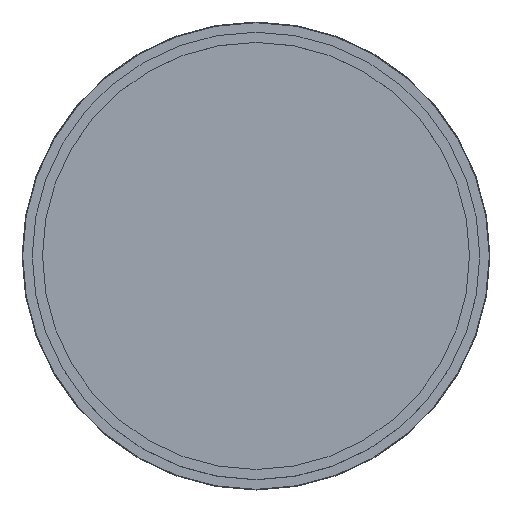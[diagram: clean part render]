
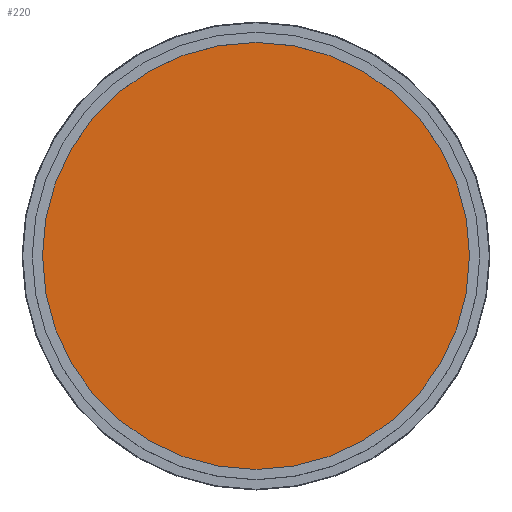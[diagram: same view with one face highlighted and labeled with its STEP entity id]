
A CAD part, top view. The second image highlights one B-rep face of the part: STEP entity #220.
In plain terms, the highlighted planar face has unit normal (0, 0, 1).
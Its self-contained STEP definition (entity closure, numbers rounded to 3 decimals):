
#38 = CIRCLE ( 'NONE', #669, 417.5 ) ;
#89 = CIRCLE ( 'NONE', #678, 417.5 ) ;
#172 = ORIENTED_EDGE ( 'NONE', *, *, #780, .T. ) ;
#190 = ORIENTED_EDGE ( 'NONE', *, *, #759, .T. ) ;
#220 = ADVANCED_FACE ( 'NONE', ( #359 ), #810, .F. ) ;
#257 = VERTEX_POINT ( 'NONE', #434 ) ;
#259 = EDGE_LOOP ( 'NONE', ( #172, #190 ) ) ;
#299 = VERTEX_POINT ( 'NONE', #419 ) ;
#359 = FACE_OUTER_BOUND ( 'NONE', #259, .T. ) ;
#419 = CARTESIAN_POINT ( 'NONE',  ( 417.5, 0., 60. ) ) ;
#434 = CARTESIAN_POINT ( 'NONE',  ( -417.5, 0., 60. ) ) ;
#562 = CARTESIAN_POINT ( 'NONE',  ( 0., 0., 60. ) ) ;
#563 = DIRECTION ( 'NONE',  ( 0., 0., 1. ) ) ;
#564 = DIRECTION ( 'NONE',  ( 1., 0., 0. ) ) ;
#597 = CARTESIAN_POINT ( 'NONE',  ( 0., 0., 60. ) ) ;
#598 = DIRECTION ( 'NONE',  ( 0., 0., 1. ) ) ;
#599 = DIRECTION ( 'NONE',  ( 1., 0., 0. ) ) ;
#669 = AXIS2_PLACEMENT_3D ( 'NONE', #597, #598, #599 ) ;
#678 = AXIS2_PLACEMENT_3D ( 'NONE', #562, #563, #564 ) ;
#759 = EDGE_CURVE ( 'NONE', #299, #257, #89, .T. ) ;
#780 = EDGE_CURVE ( 'NONE', #257, #299, #38, .T. ) ;
#798 = AXIS2_PLACEMENT_3D ( 'NONE', #820, #805, #824 ) ;
#805 = DIRECTION ( 'NONE',  ( 0., 0., -1. ) ) ;
#810 = PLANE ( 'NONE',  #798 ) ;
#820 = CARTESIAN_POINT ( 'NONE',  ( 0., 0., 60. ) ) ;
#824 = DIRECTION ( 'NONE',  ( -1., 0., 0. ) ) ;
